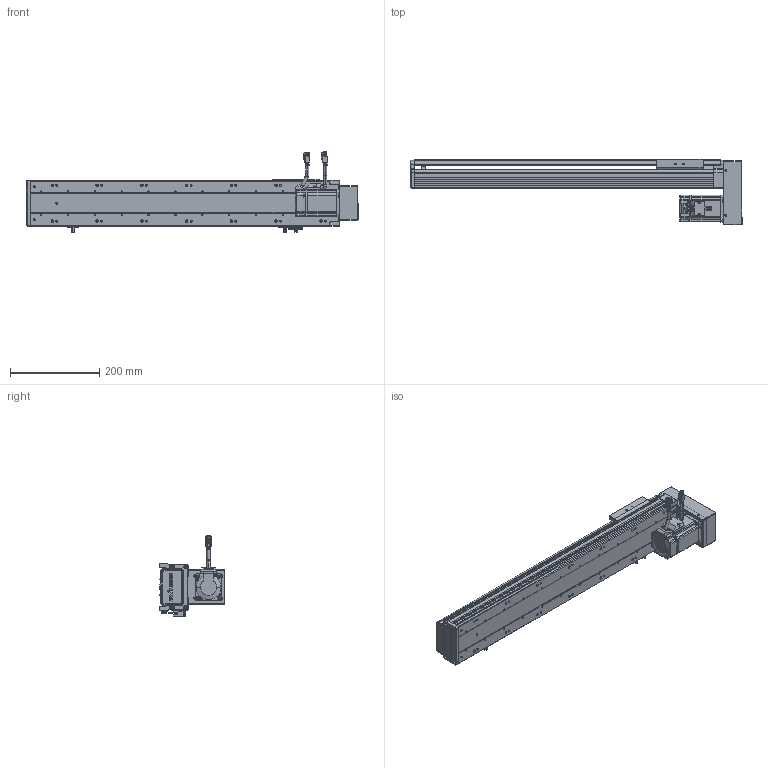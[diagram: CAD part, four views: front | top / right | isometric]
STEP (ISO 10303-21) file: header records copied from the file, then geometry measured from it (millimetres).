
FILE_DESCRIPTION (( 'STEP AP203' ), '1' );
FILE_NAME ('RY100S-L1620-300-BK(15双轨).SLDASM_500.step', '2021-02-20T08:23:11', ( '盈信电脑' ), ( '东莞市道滘镇水果街19号' ), 'SwSTEP 2.0', 'SolidWorks 2012', '' );
FILE_SCHEMA (( 'CONFIG_CONTROL_DESIGN' ));
Length unit declared in the file: millimetre
Products named in the file (26): RY80肮祭湍覃踡啣; RY100S狟殏萇儂欶(15邧寢); 3M30喘15遵; RY100S-L1620-300-BK(15邧寢).SLDASM_500; RY100S-狟殏萇儂郪; 7; 侂狟200W萇儂; RY100S下折电机安装板（15双轨）; 肮祭湍5M遵15笚酗260; 4; 5; 3; 6; 2; 1; 滅袉蝶18-24; RY80肮祭湍芢雄輸; RY100S-絳寢EGH15-350-LK(腴郪15邧寢)_500; RY100綴裔啣; RY100俋离覜茼え; 滅袉蝶18-10; 覜茼ん672; RY100S转折电机端支撑座(15双轨); RY100S-350-LK型材底座(低组15双轨)_500; RY100S-300-LK转折型材上盖(15双轨)_500; RY100S铝滑块（15双轨单滑块）底组装导轨
Assembly tree (28 placements, depth 4):
  RY100S-L1620-300-BK(15邧寢).SLDASM_500
    RY100S-350-LK型材底座(低组15双轨)_500
    RY100S-300-LK转折型材上盖(15双轨)_500
    RY100S铝滑块（15双轨单滑块）底组装导轨
    覜茼ん672  x3
    滅袉蝶18-10
    RY100俋离覜茼え
    RY100S转折电机端支撑座(15双轨)
    滅袉蝶18-24
    RY100綴裔啣
    RY100S-絳寢EGH15-350-LK(腴郪15邧寢)_500
    RY100S-狟殏萇儂郪
      RY80肮祭湍芢雄輸  x2
      RY100S狟殏萇儂欶(15邧寢)
      3M30喘15遵
      RY80肮祭湍覃踡啣
      侂狟200W萇儂
        1
        2
        3
        4
        5
        6
        7
      肮祭湍5M遵15笚酗260
      RY100S下折电机安装板（15双轨）
Bounding box: 742 x 147 x 179.5 mm (x, y, z)
Volume: 2005928.8 mm3; surface area: 772234.8 mm2
Topology: 26 solids, 26 shells, 3292 faces, 8863 edges, 5716 vertices
Faces by surface type: plane 1728, cylinder 1281, cone 169, bspline 114
Entity records: 107119 total; most frequent: CARTESIAN_POINT 26486, ORIENTED_EDGE 16430, DIRECTION 15964, EDGE_CURVE 8215, AXIS2_PLACEMENT_3D 5460, VERTEX_POINT 5352, VECTOR 5044, LINE 5044
